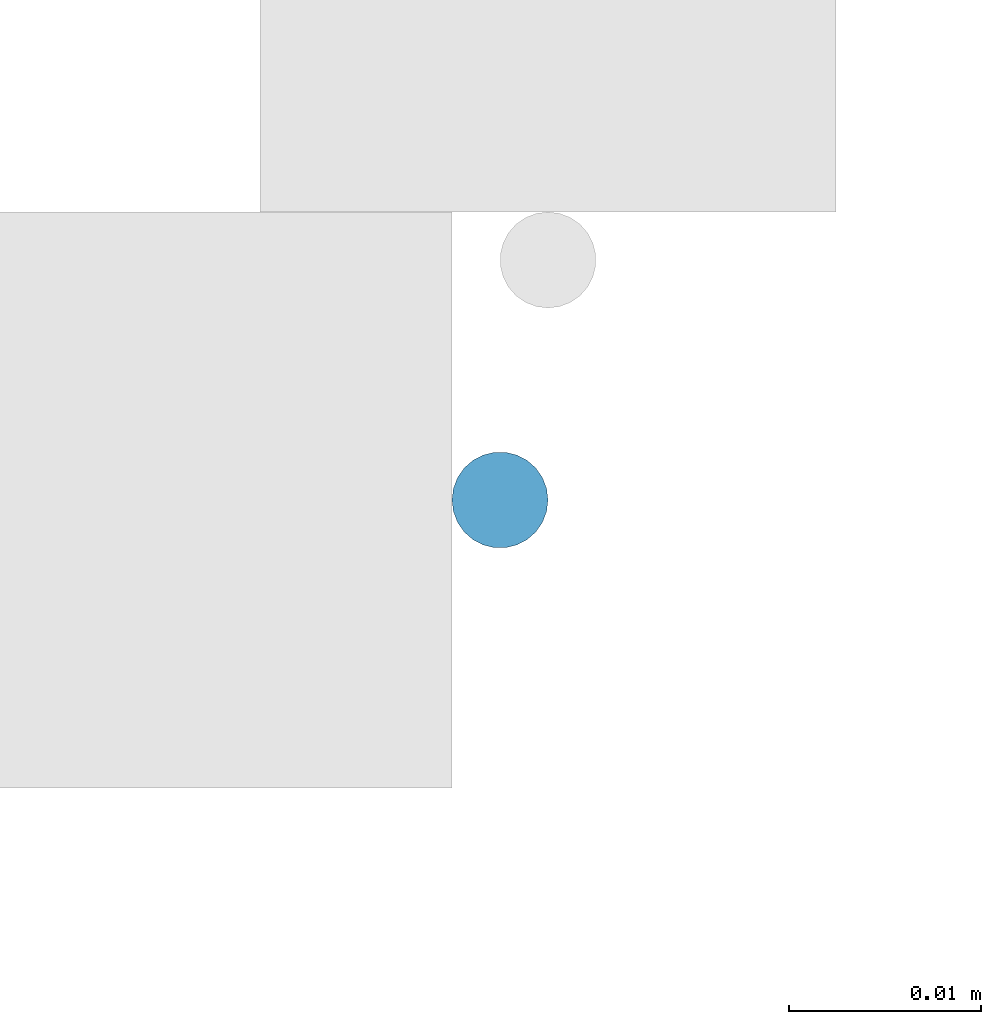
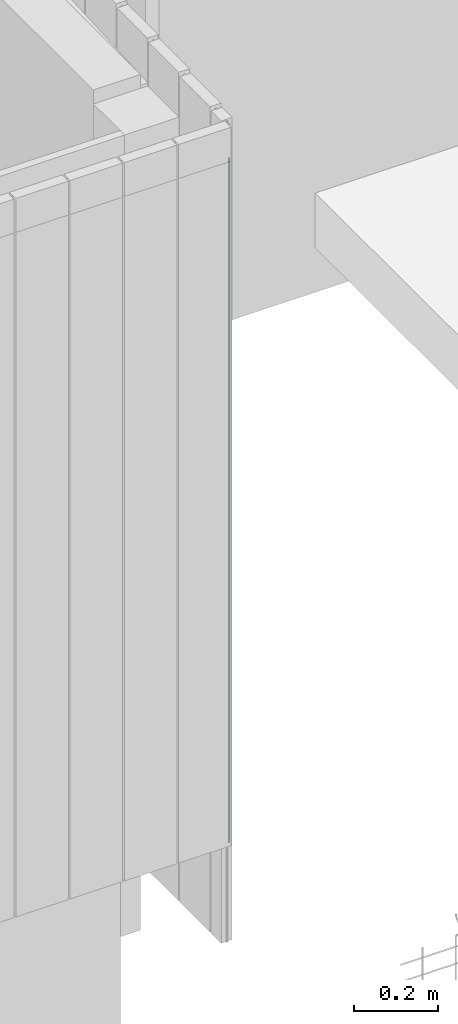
# One storey, part 27 of 81: 1 member, 1 element without a shape of its own.
"""IFC2X3 building model written with IfcOpenShell, lengths in metres."""

from ifc_helpers import new_model, entity, si_unit, converted_unit, derived_unit, direction, frame, frame_2d, origin, place, context, subcontext, project, spatial, circle, extrude, source, transform, mapped, material, type_object, type_shapes, element, aggregate, save


model = new_model("IFC2X3")

# Units and contexts
model_context = context("Model", 3, precision=1e-05, world=origin(), true_north=direction((6.12303176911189e-17, 1.0)))
body_context = subcontext(model_context, "Body", "Model", "MODEL_VIEW")
ifc_project = project(units=[si_unit("LENGTHUNIT", "METRE"), si_unit("AREAUNIT", "SQUARE_METRE"), si_unit("VOLUMEUNIT", "CUBIC_METRE"), converted_unit("PLANEANGLEUNIT", "DEGREE", entity("IfcRatioMeasure", 0.0174532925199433), si_unit("PLANEANGLEUNIT", "RADIAN"), dimensions=[0, 0, 0, 0, 0, 0, 0]), si_unit("MASSUNIT", "GRAM", prefix="KILO"), derived_unit("MASSDENSITYUNIT", [(si_unit("MASSUNIT", "GRAM", prefix="KILO"), 1), (si_unit("LENGTHUNIT", "METRE"), -3)]), derived_unit("MOMENTOFINERTIAUNIT", [(si_unit("LENGTHUNIT", "METRE"), 4)]), si_unit("TIMEUNIT", "SECOND"), si_unit("FREQUENCYUNIT", "HERTZ"), si_unit("THERMODYNAMICTEMPERATUREUNIT", "DEGREE_CELSIUS"), derived_unit("THERMALTRANSMITTANCEUNIT", [(si_unit("MASSUNIT", "GRAM", prefix="KILO"), 1), (si_unit("THERMODYNAMICTEMPERATUREUNIT", "KELVIN"), -1), (si_unit("TIMEUNIT", "SECOND"), -3)]), derived_unit("VOLUMETRICFLOWRATEUNIT", [(si_unit("LENGTHUNIT", "METRE"), 3), (si_unit("TIMEUNIT", "SECOND"), -1)]), si_unit("ELECTRICCURRENTUNIT", "AMPERE"), si_unit("ELECTRICVOLTAGEUNIT", "VOLT"), si_unit("POWERUNIT", "WATT"), si_unit("FORCEUNIT", "NEWTON", prefix="KILO"), si_unit("ILLUMINANCEUNIT", "LUX"), si_unit("LUMINOUSFLUXUNIT", "LUMEN"), si_unit("LUMINOUSINTENSITYUNIT", "CANDELA"), derived_unit("USERDEFINED", [(si_unit("MASSUNIT", "GRAM", prefix="KILO"), -1), (si_unit("LENGTHUNIT", "METRE"), -2), (si_unit("TIMEUNIT", "SECOND"), 3), (si_unit("LUMINOUSFLUXUNIT", "LUMEN"), 1)]), derived_unit("LINEARVELOCITYUNIT", [(si_unit("LENGTHUNIT", "METRE"), 1), (si_unit("TIMEUNIT", "SECOND"), -1)]), si_unit("PRESSUREUNIT", "PASCAL"), derived_unit("USERDEFINED", [(si_unit("LENGTHUNIT", "METRE"), -2), (si_unit("MASSUNIT", "GRAM", prefix="KILO"), 1), (si_unit("TIMEUNIT", "SECOND"), -2)]), derived_unit("LINEARFORCEUNIT", [(si_unit("MASSUNIT", "GRAM", prefix="KILO"), 1), (si_unit("LENGTHUNIT", "METRE"), 1), (si_unit("TIMEUNIT", "SECOND"), -2), (si_unit("LENGTHUNIT", "METRE"), -1)]), derived_unit("PLANARFORCEUNIT", [(si_unit("MASSUNIT", "GRAM", prefix="KILO"), 1), (si_unit("LENGTHUNIT", "METRE"), 1), (si_unit("TIMEUNIT", "SECOND"), -2), (si_unit("LENGTHUNIT", "METRE"), -2)])], contexts=[model_context])

# Site, building, storey
site_placement = place(None, origin())
site = spatial("IfcSite", under=ifc_project, at=site_placement, Name="Surface", CompositionType="ELEMENT")
building_placement = place(site_placement, origin())
building = spatial("IfcBuilding", under=site, at=building_placement, CompositionType="ELEMENT")
storey_placement = place(building_placement, origin())
storey = spatial("IfcBuildingStorey", under=building, at=storey_placement, Name="01 RDC", CompositionType="ELEMENT", Elevation=-1.94916083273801e-14)

# Curtain wall, member
curtain_wall_type = type_object("IfcCurtainWallType", Name="Mur-rideau:1m x 2m", PredefinedType="NOTDEFINED")
curtain_wall_placement = place(storey_placement, origin())
curtain_wall = element("IfcCurtainWall", 1, at=curtain_wall_placement, inside=storey, type_object=curtain_wall_type, Name="Mur-rideau:1m x 2m", ObjectType="Mur-rideau:1m x 2m")
ifc_material = material(Name="Aluminium - Vert")
member_type = type_object("IfcMemberType", Name="Meneau circulaire:R-30 mm", PredefinedType="MULLION", material=ifc_material)
shared_shape = source(origin(), body_context, "Body", "SweptSolid", [
    extrude(circle(Radius=0.0025, at=frame_2d((-5.28743715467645e-19, -3.22697451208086e-15), x_axis=(1.0, 0.0))), frame((-0.0025, 0.0, -2.0)), (0.0, 0.0, 1.0), 2.0),
])
type_shapes(member_type, [shared_shape])
member_placement = place(storey_placement, frame((8.02156158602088, -6.30971095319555, 2.3)))
member = element("IfcMember", 2, at=member_placement, type_object=member_type, material=ifc_material, Name="Meneau circulaire:R-30 mm", ObjectType="Meneau circulaire:R-30 mm", context=body_context, shape_type="MappedRepresentation", body=[
    mapped(shared_shape, transform((0.0, 0.0, 0.0), scale=1.0)),
])
aggregate(curtain_wall, [member])

save(model, "model.ifc")
